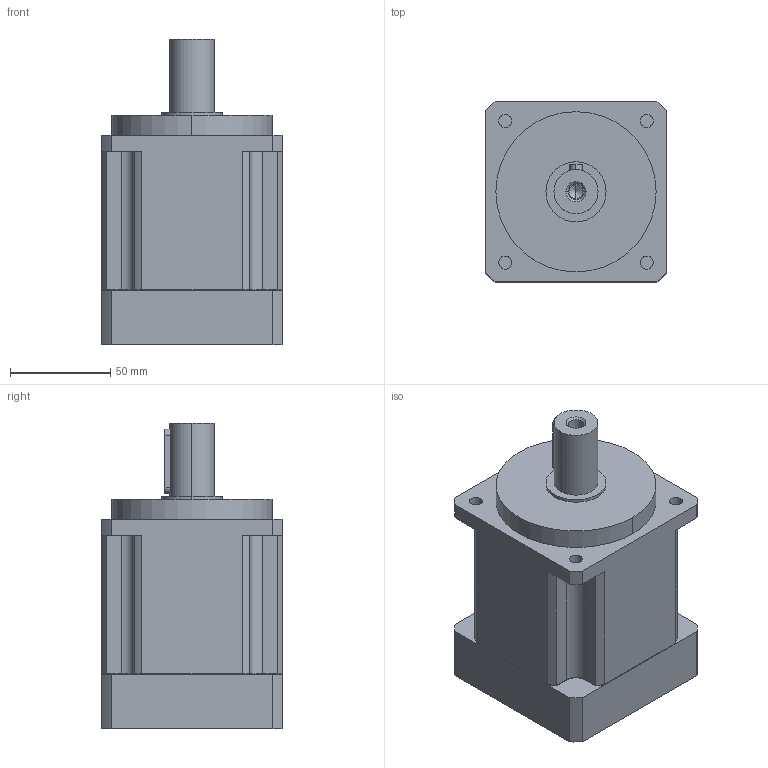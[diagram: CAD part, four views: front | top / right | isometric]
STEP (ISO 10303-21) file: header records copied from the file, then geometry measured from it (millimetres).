
FILE_DESCRIPTION (( 'STEP AP203' ), '1' );
FILE_NAME ('IB90L1-i-P2-S2-19-40-70-90-M6.STEP', '2016-01-04T12:30:52', ( 'User' ), ( 'china' ), 'SwSTEP 2.0', 'SolidWorks 2014', '' );
FILE_SCHEMA (( 'CONFIG_CONTROL_DESIGN' ));
Length unit declared in the file: millimetre
Products named in the file (1): IB90L1-i-P2-S2-19-40-70-90-M6
Bounding box: 90 x 90 x 152.5 mm (x, y, z)
Volume: 794255.9 mm3; surface area: 65032.6 mm2
Topology: 1 solids, 1 shells, 133 faces, 321 edges, 197 vertices
Faces by surface type: cylinder 73, plane 36, cone 12, bspline 12
Entity records: 4550 total; most frequent: CARTESIAN_POINT 1415, DIRECTION 653, ORIENTED_EDGE 622, EDGE_CURVE 311, AXIS2_PLACEMENT_3D 251, VERTEX_POINT 197, EDGE_LOOP 158, VECTOR 151
